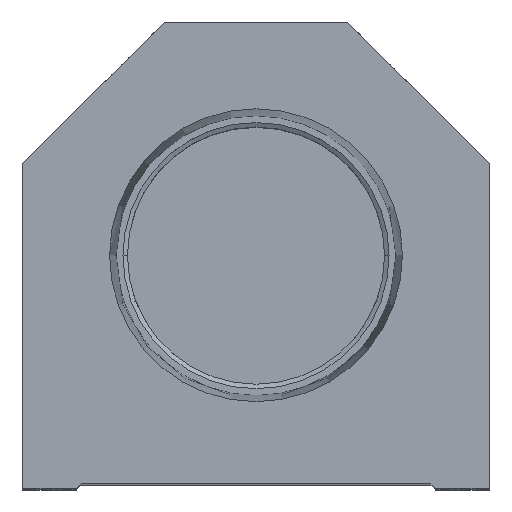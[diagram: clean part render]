
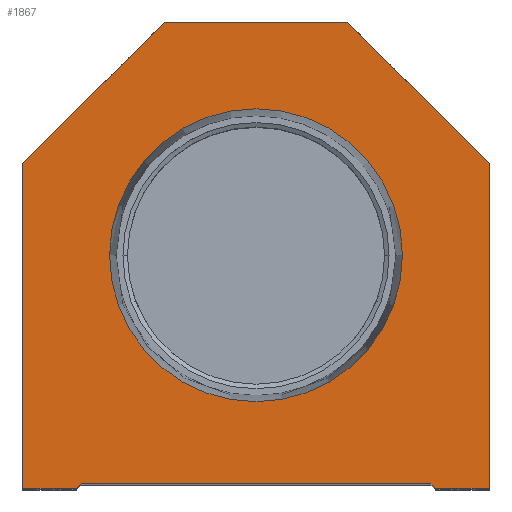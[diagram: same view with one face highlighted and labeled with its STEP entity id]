
A CAD part, top view. The second image highlights one B-rep face of the part: STEP entity #1867.
In plain terms, the highlighted planar face has unit normal (0, 0, 1).
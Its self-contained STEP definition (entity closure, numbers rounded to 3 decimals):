
#138 = CARTESIAN_POINT ( 'NONE',  ( 19.55, 0., 0. ) ) ;
#666 = LINE ( 'NONE', #19169, #14552 ) ;
#764 = DIRECTION ( 'NONE',  ( -1., 0., 0. ) ) ;
#1045 = CARTESIAN_POINT ( 'NONE',  ( 25.4, 0., 0. ) ) ;
#1562 = CARTESIAN_POINT ( 'NONE',  ( 25.4, 35.4, 0. ) ) ;
#1867 = ADVANCED_FACE ( 'NONE', ( #11876, #11765 ), #6929, .T. ) ;
#1934 = CARTESIAN_POINT ( 'NONE',  ( -25.4, 35.4, 0. ) ) ;
#2081 = CARTESIAN_POINT ( 'NONE',  ( 19.05, 0.5, 0. ) ) ;
#2155 = CARTESIAN_POINT ( 'NONE',  ( 19.05, 0., 0. ) ) ;
#2195 = ORIENTED_EDGE ( 'NONE', *, *, #8732, .T. ) ;
#2552 = VERTEX_POINT ( 'NONE', #17452 ) ;
#2578 = VECTOR ( 'NONE', #14031, 1000. ) ;
#2588 = EDGE_CURVE ( 'NONE', #18555, #2552, #20958, .T. ) ;
#2619 = VECTOR ( 'NONE', #11520, 1000. ) ;
#2763 = VECTOR ( 'NONE', #4039, 1000. ) ;
#2782 = ORIENTED_EDGE ( 'NONE', *, *, #20525, .T. ) ;
#3039 = AXIS2_PLACEMENT_3D ( 'NONE', #10536, #13606, #8674 ) ;
#3368 = EDGE_LOOP ( 'NONE', ( #9351, #13112 ) ) ;
#3451 = EDGE_CURVE ( 'NONE', #19949, #12903, #18314, .T. ) ;
#3529 = CARTESIAN_POINT ( 'NONE',  ( -25.4, 35.4, 0. ) ) ;
#3781 = CARTESIAN_POINT ( 'NONE',  ( 0., 25.4, 0. ) ) ;
#3885 = CARTESIAN_POINT ( 'NONE',  ( -9.775, 9.775, 0. ) ) ;
#3946 = AXIS2_PLACEMENT_3D ( 'NONE', #7278, #5962, #5868 ) ;
#4039 = DIRECTION ( 'NONE',  ( 0., -1., 0. ) ) ;
#4078 = VERTEX_POINT ( 'NONE', #7785 ) ;
#4680 = LINE ( 'NONE', #9696, #6701 ) ;
#4788 = VECTOR ( 'NONE', #13355, 1000. ) ;
#5213 = DIRECTION ( 'NONE',  ( 1., 0., 0. ) ) ;
#5757 = EDGE_CURVE ( 'NONE', #4078, #18635, #18890, .T. ) ;
#5868 = DIRECTION ( 'NONE',  ( 1., 0., 0. ) ) ;
#5934 = CARTESIAN_POINT ( 'NONE',  ( 25.4, 35.4, 0. ) ) ;
#5962 = DIRECTION ( 'NONE',  ( 0., 0., 1. ) ) ;
#6030 = CIRCLE ( 'NONE', #3946, 15.947 ) ;
#6701 = VECTOR ( 'NONE', #16389, 1000. ) ;
#6751 = EDGE_CURVE ( 'NONE', #2552, #19557, #666, .T. ) ;
#6804 = ORIENTED_EDGE ( 'NONE', *, *, #5757, .T. ) ;
#6929 = PLANE ( 'NONE',  #3039 ) ;
#7003 = CARTESIAN_POINT ( 'NONE',  ( 25.4, 0., 0. ) ) ;
#7247 = ORIENTED_EDGE ( 'NONE', *, *, #13360, .T. ) ;
#7278 = CARTESIAN_POINT ( 'NONE',  ( 0., 25.4, 0. ) ) ;
#7297 = CARTESIAN_POINT ( 'NONE',  ( -25.4, 0., 0. ) ) ;
#7785 = CARTESIAN_POINT ( 'NONE',  ( -19.55, 0., 0. ) ) ;
#7838 = VERTEX_POINT ( 'NONE', #7003 ) ;
#8303 = EDGE_CURVE ( 'NONE', #15888, #13022, #9046, .T. ) ;
#8674 = DIRECTION ( 'NONE',  ( 1., 0., 0. ) ) ;
#8698 = LINE ( 'NONE', #1934, #14274 ) ;
#8732 = EDGE_CURVE ( 'NONE', #7838, #18555, #19868, .T. ) ;
#9012 = ORIENTED_EDGE ( 'NONE', *, *, #3451, .T. ) ;
#9046 = LINE ( 'NONE', #7297, #2763 ) ;
#9351 = ORIENTED_EDGE ( 'NONE', *, *, #19644, .F. ) ;
#9504 = ORIENTED_EDGE ( 'NONE', *, *, #6751, .T. ) ;
#9643 = VECTOR ( 'NONE', #12018, 1000. ) ;
#9696 = CARTESIAN_POINT ( 'NONE',  ( -19.05, 0.5, 0. ) ) ;
#10169 = EDGE_CURVE ( 'NONE', #18635, #19949, #4680, .T. ) ;
#10264 = VECTOR ( 'NONE', #10560, 1000. ) ;
#10536 = CARTESIAN_POINT ( 'NONE',  ( 0., 0., 0. ) ) ;
#10560 = DIRECTION ( 'NONE',  ( 0.707, 0.707, 0. ) ) ;
#11189 = ORIENTED_EDGE ( 'NONE', *, *, #2588, .T. ) ;
#11520 = DIRECTION ( 'NONE',  ( 0.707, -0.707, 0. ) ) ;
#11765 = FACE_OUTER_BOUND ( 'NONE', #17519, .T. ) ;
#11813 = VERTEX_POINT ( 'NONE', #12754 ) ;
#11876 = FACE_BOUND ( 'NONE', #3368, .T. ) ;
#12018 = DIRECTION ( 'NONE',  ( 1., 0., 0. ) ) ;
#12754 = CARTESIAN_POINT ( 'NONE',  ( 15.947, 25.4, 0. ) ) ;
#12844 = CIRCLE ( 'NONE', #17414, 15.947 ) ;
#12903 = VERTEX_POINT ( 'NONE', #138 ) ;
#13022 = VERTEX_POINT ( 'NONE', #19074 ) ;
#13062 = DIRECTION ( 'NONE',  ( 0., 1., 0. ) ) ;
#13112 = ORIENTED_EDGE ( 'NONE', *, *, #14091, .F. ) ;
#13355 = DIRECTION ( 'NONE',  ( 1., 0., 0. ) ) ;
#13360 = EDGE_CURVE ( 'NONE', #12903, #7838, #20241, .T. ) ;
#13606 = DIRECTION ( 'NONE',  ( 0., 0., 1. ) ) ;
#13706 = VERTEX_POINT ( 'NONE', #21070 ) ;
#14031 = DIRECTION ( 'NONE',  ( -0.707, 0.707, 0. ) ) ;
#14091 = EDGE_CURVE ( 'NONE', #13706, #11813, #6030, .T. ) ;
#14274 = VECTOR ( 'NONE', #15359, 1000. ) ;
#14552 = VECTOR ( 'NONE', #764, 1000. ) ;
#15359 = DIRECTION ( 'NONE',  ( -0.707, -0.707, 0. ) ) ;
#15721 = VECTOR ( 'NONE', #13062, 1000. ) ;
#15888 = VERTEX_POINT ( 'NONE', #3529 ) ;
#16389 = DIRECTION ( 'NONE',  ( 1., 0., 0. ) ) ;
#16484 = CARTESIAN_POINT ( 'NONE',  ( -10., 50.8, 0. ) ) ;
#16540 = LINE ( 'NONE', #18410, #4788 ) ;
#17414 = AXIS2_PLACEMENT_3D ( 'NONE', #3781, #20543, #5213 ) ;
#17427 = CARTESIAN_POINT ( 'NONE',  ( -19.05, 0.5, 0. ) ) ;
#17452 = CARTESIAN_POINT ( 'NONE',  ( 10., 50.8, 0. ) ) ;
#17519 = EDGE_LOOP ( 'NONE', ( #21273, #6804, #19375, #9012, #7247, #2195, #11189, #9504, #2782, #20091 ) ) ;
#18314 = LINE ( 'NONE', #20059, #2619 ) ;
#18410 = CARTESIAN_POINT ( 'NONE',  ( -19.05, 0., 0. ) ) ;
#18555 = VERTEX_POINT ( 'NONE', #1562 ) ;
#18635 = VERTEX_POINT ( 'NONE', #17427 ) ;
#18885 = EDGE_CURVE ( 'NONE', #13022, #4078, #16540, .T. ) ;
#18890 = LINE ( 'NONE', #3885, #10264 ) ;
#19074 = CARTESIAN_POINT ( 'NONE',  ( -25.4, 0., 0. ) ) ;
#19169 = CARTESIAN_POINT ( 'NONE',  ( 10., 50.8, 0. ) ) ;
#19375 = ORIENTED_EDGE ( 'NONE', *, *, #10169, .T. ) ;
#19557 = VERTEX_POINT ( 'NONE', #16484 ) ;
#19644 = EDGE_CURVE ( 'NONE', #11813, #13706, #12844, .T. ) ;
#19868 = LINE ( 'NONE', #1045, #15721 ) ;
#19949 = VERTEX_POINT ( 'NONE', #2081 ) ;
#20059 = CARTESIAN_POINT ( 'NONE',  ( 9.775, 9.775, 0. ) ) ;
#20091 = ORIENTED_EDGE ( 'NONE', *, *, #8303, .T. ) ;
#20241 = LINE ( 'NONE', #2155, #9643 ) ;
#20525 = EDGE_CURVE ( 'NONE', #19557, #15888, #8698, .T. ) ;
#20543 = DIRECTION ( 'NONE',  ( 0., 0., 1. ) ) ;
#20958 = LINE ( 'NONE', #5934, #2578 ) ;
#21070 = CARTESIAN_POINT ( 'NONE',  ( -15.947, 25.4, 0. ) ) ;
#21273 = ORIENTED_EDGE ( 'NONE', *, *, #18885, .T. ) ;
